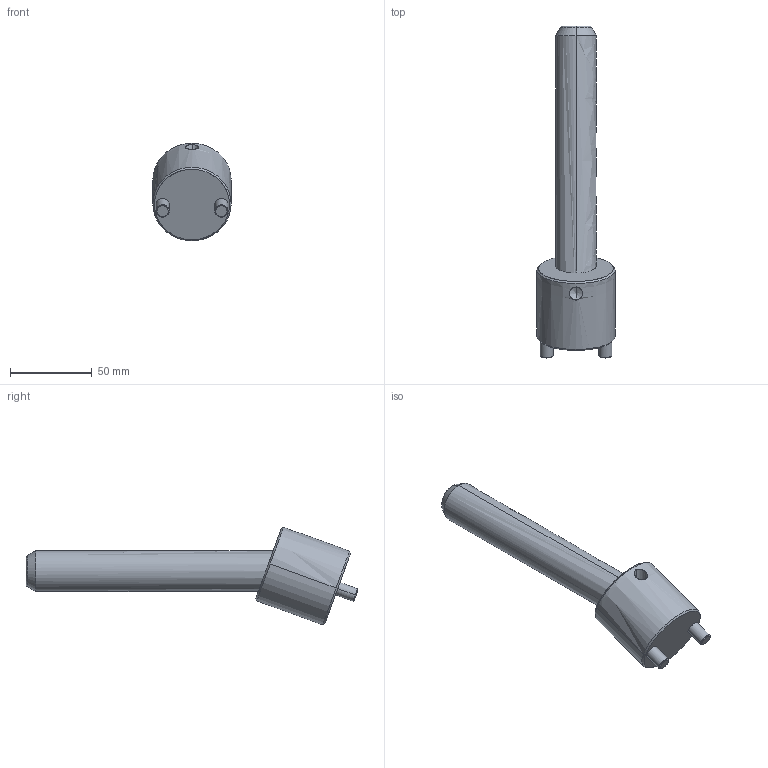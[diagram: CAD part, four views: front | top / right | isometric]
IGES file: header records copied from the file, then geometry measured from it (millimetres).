
Start section: START RECORD GO HERE.
Global section: file name: CI2025150.igs; native system: DASSAULT SYSTEMES CATIA V5 R20 - www.3ds.com; preprocessor: CATIA Version 5 Release 20 ; author: r.borello; organization: CFTORINO; date: 20190624.084410; units: millimetre
Bounding box: 48 x 203.47 x 59.81 mm (x, y, z)
Surface area: 29312.5 mm2 (no closed solid volume)
Topology: 0 solids, 0 shells, 39 faces, 162 edges, 160 vertices
Faces by surface type: revolution 32, plane 7
